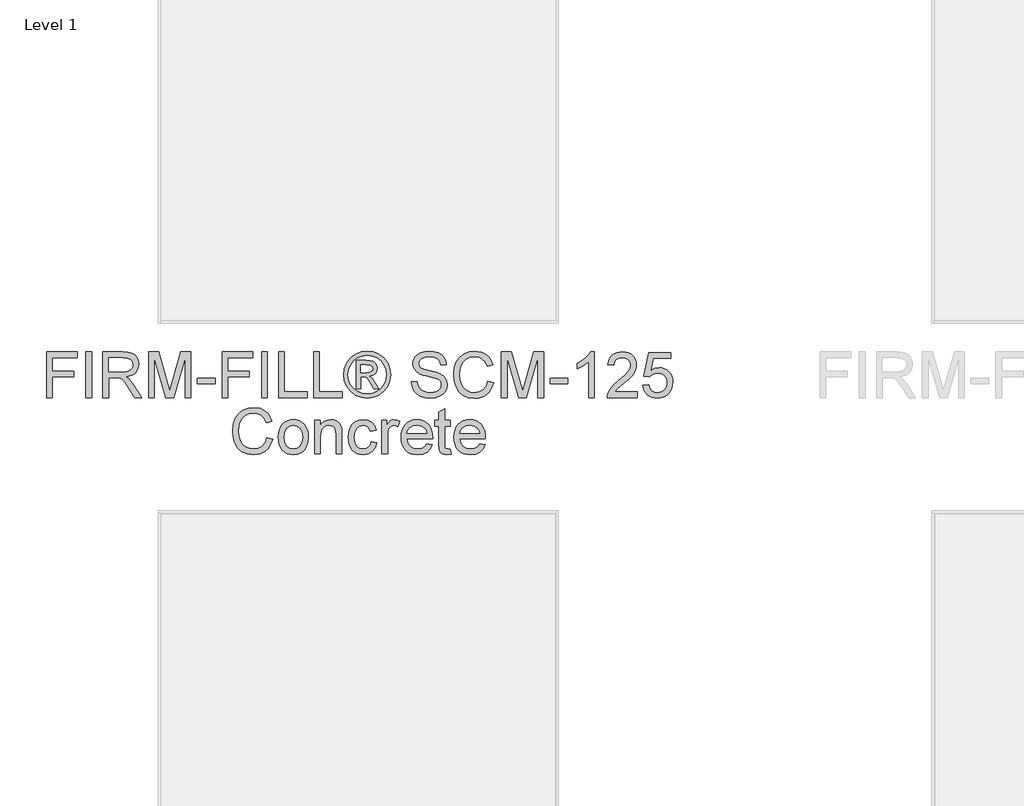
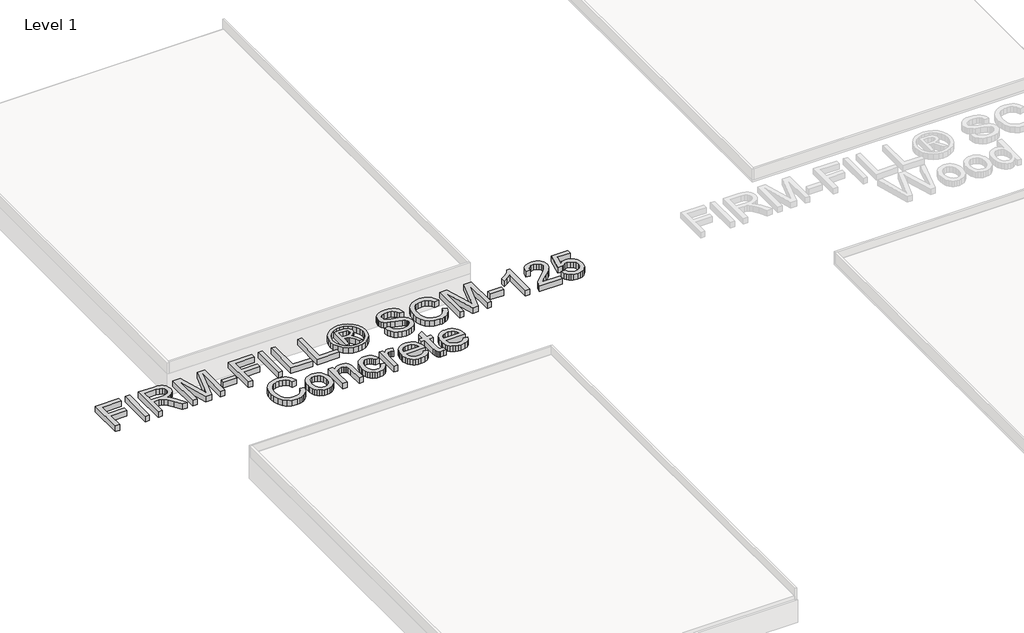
# One storey, part 6 of 10: 1 proxy.
"""IFC4 building model written with IfcOpenShell, lengths in millimetres."""

import ifcopenshell
import ifcopenshell.guid

model = None  # the IFC model being written
_history = None  # IfcOwnerHistory: only IFC2X3 demands one
_inside = {}  # id of a spatial element -> (the spatial element, [elements in it])
_under = {}  # id of a project, library or spatial element -> (it, [spatial elements below it])
_declared = {}  # id of a project -> (the project, [libraries it declares])
_typed = {}  # id of a type object -> (the type object, [elements of that type])
_made_of = {}  # id of a material, layer set ... -> (it, [elements and type objects made of it])


def new_model(schema):
    """Start an empty IFC model of exactly this schema.

    Asked for "IFC4X3", IfcOpenShell would pick the latest addendum, in which some entities
    have other attributes; the version numbers below select the first issue.
    IFC2X3 requires an IfcOwnerHistory on every rooted entity: one is made here for all.
    """
    global model, _history
    if schema == "IFC4X3":
        model = ifcopenshell.file(schema_version=(4, 3, 0, 0))
    else:
        model = ifcopenshell.file(schema=schema)
    _inside.clear()
    _under.clear()
    _declared.clear()
    _typed.clear()
    _made_of.clear()
    _history = None
    if model.schema == "IFC2X3":
        org = make("IfcOrganization", Name="unknown")
        user = make(
            "IfcPersonAndOrganization",
            ThePerson=make("IfcPerson", FamilyName="unknown"),
            TheOrganization=org,
        )
        app = make(
            "IfcApplication",
            ApplicationDeveloper=org,
            Version="unknown",
            ApplicationFullName="unknown",
            ApplicationIdentifier="unknown",
        )
        _history = make(
            "IfcOwnerHistory",
            OwningUser=user,
            OwningApplication=app,
            ChangeAction="ADDED",
            CreationDate=0,
        )
    return model


def make(cls, **values):
    """One entity of the class cls with the attributes given. An attribute that is None is left unset."""
    return model.create_entity(
        cls, **{name: value for name, value in values.items() if value is not None}
    )


def rooted(cls, **values):
    """An entity with a GlobalId (a new one), such as an element, a storey or a relation."""
    return make(cls, GlobalId=ifcopenshell.guid.new(), OwnerHistory=_history, **values)


def si_unit(unit_type, name, prefix=None):
    """IfcSIUnit, for example si_unit("LENGTHUNIT", "METRE", prefix="MILLI")."""
    return make("IfcSIUnit", UnitType=unit_type, Prefix=prefix, Name=name)


def assignment(units):
    """IfcUnitAssignment: the units of a project."""
    return None if units is None else make("IfcUnitAssignment", Units=units)


def point(xyz):
    """IfcCartesianPoint."""
    return None if xyz is None else make("IfcCartesianPoint", Coordinates=xyz)


def direction(xyz):
    """IfcDirection."""
    return None if xyz is None else make("IfcDirection", DirectionRatios=xyz)


def frame(location, z_axis=None, x_axis=None):
    """IfcAxis2Placement3D, a coordinate frame: its origin and axes. An axis left out is left unset."""
    return make(
        "IfcAxis2Placement3D",
        Location=point(location),
        Axis=direction(z_axis),
        RefDirection=direction(x_axis),
    )


def origin():
    """The frame at (0, 0, 0) with its axes left unset."""
    return frame((0.0, 0.0, 0.0))


def origin_with_axes():
    """The frame at (0, 0, 0) with the z axis (0, 0, 1) and the x axis (1, 0, 0) written out."""
    return frame((0.0, 0.0, 0.0), z_axis=(0.0, 0.0, 1.0), x_axis=(1.0, 0.0, 0.0))


def place(relative_to, where):
    """IfcLocalPlacement: puts the frame where relative to a parent placement (None: the world)."""
    return make(
        "IfcLocalPlacement", PlacementRelTo=relative_to, RelativePlacement=where
    )


def context(
    kind, dimensions, precision=None, world=None, true_north=None, identifier=None
):
    """IfcGeometricRepresentationContext, for example the 3D "Model" context."""
    return make(
        "IfcGeometricRepresentationContext",
        ContextIdentifier=identifier,
        ContextType=kind,
        CoordinateSpaceDimension=dimensions,
        Precision=precision,
        WorldCoordinateSystem=world,
        TrueNorth=true_north,
    )


def project(units=None, contexts=None):
    """IfcProject with its units and contexts."""
    return rooted(
        "IfcProject",
        Name="project",
        RepresentationContexts=contexts,
        UnitsInContext=assignment(units),
    )


def spatial(cls, under=None, at=None, **own):
    """A site, building, storey or space (cls), placed at a placement, below another one or the project."""
    s = rooted(cls, ObjectPlacement=at, **own)
    if under is not None:
        _under.setdefault(under.id(), (under, []))[1].append(s)
    return s


def polyline(points):
    """IfcPolyline through the points."""
    return make("IfcPolyline", Points=[point(p) for p in points])


def outline(outer, holes=None, kind="AREA"):
    """IfcArbitraryClosedProfileDef: a profile drawn as a closed curve; with holes, ...WithVoids."""
    if holes is None:
        return make("IfcArbitraryClosedProfileDef", ProfileType=kind, OuterCurve=outer)
    return make(
        "IfcArbitraryProfileDefWithVoids",
        ProfileType=kind,
        OuterCurve=outer,
        InnerCurves=holes,
    )


def extrude(swept, where, along, depth):
    """IfcExtrudedAreaSolid: the profile swept, set in the frame where, extruded along a direction by depth."""
    return make(
        "IfcExtrudedAreaSolid",
        SweptArea=swept,
        Position=where,
        ExtrudedDirection=direction(along),
        Depth=depth,
    )


def shape(context_of_items, identifier, shape_type, items):
    """IfcShapeRepresentation: the items that make up one representation, for example the "Body"."""
    return make(
        "IfcShapeRepresentation",
        ContextOfItems=context_of_items,
        RepresentationIdentifier=identifier,
        RepresentationType=shape_type,
        Items=items,
    )


def made_of(thing, what):
    """Note that an element or type object is made of a material, layer set ...; save() writes the relation."""
    if what is not None:
        _made_of.setdefault(what.id(), (what, []))[1].append(thing)
    return thing


def element(
    cls,
    number,
    at=None,
    inside=None,
    cuts=None,
    type_object=None,
    material=None,
    context=None,
    identifier="Body",
    shape_type=None,
    held_by="IfcProductDefinitionShape",
    body=None,
    shapes=None,
    **own,
):
    """One element of the class cls, such as IfcWall. Its Tag is "e" and its number.

    at: its placement. inside: the storey or other place that contains it. cuts: it is an
    opening in that element (IfcRelVoidsElement). A single representation is given by context,
    identifier, shape_type and body (its items); several are given by shapes. held_by: the class
    of the entity that holds the representations. save() writes the other relations.
    """
    e = rooted(cls, Tag="e%d" % number, ObjectPlacement=at, **own)
    if body is not None:
        shapes = [shape(context, identifier, shape_type, body)]
    if shapes is not None:
        e.Representation = make(held_by, Representations=shapes)
    if inside is not None:
        _inside.setdefault(inside.id(), (inside, []))[1].append(e)
    if cuts is not None:
        rooted(
            "IfcRelVoidsElement", RelatingBuildingElement=cuts, RelatedOpeningElement=e
        )
    if type_object is not None:
        _typed.setdefault(type_object.id(), (type_object, []))[1].append(e)
    return made_of(e, material)


def aggregate(whole, parts):
    """IfcRelAggregates: a whole, such as a stair, and the parts it consists of."""
    return rooted("IfcRelAggregates", RelatingObject=whole, RelatedObjects=parts)


def save(model, path):
    """Write the relations noted so far, then the file.

    IfcRelAggregates (storeys below a building ...), IfcRelContainedInSpatialStructure (elements
    in a storey), IfcRelDefinesByType, IfcRelAssociatesMaterial and IfcRelDeclares: one each for
    every whole, place, type object, material and project.
    """
    for whole, parts in _under.values():
        aggregate(whole, parts)
    for where, things in _inside.values():
        rooted(
            "IfcRelContainedInSpatialStructure",
            RelatedElements=things,
            RelatingStructure=where,
        )
    for kind, things in _typed.values():
        rooted("IfcRelDefinesByType", RelatedObjects=things, RelatingType=kind)
    for what, things in _made_of.values():
        rooted("IfcRelAssociatesMaterial", RelatedObjects=things, RelatingMaterial=what)
    for by, libraries in _declared.values():
        rooted("IfcRelDeclares", RelatingContext=by, RelatedDefinitions=libraries)
    model.write(path)


model = new_model("IFC4")

# Units and contexts
model_context = context("Model", 3, world=origin())
ifc_project = project(units=[si_unit("LENGTHUNIT", "METRE", prefix="MILLI")], contexts=[model_context])

# Site, building, storey
site = spatial("IfcSite", under=ifc_project)
building = spatial("IfcBuilding", under=site)
storey = spatial("IfcBuildingStorey", under=building, Name="Level 1", Elevation=0.0)

# Proxy
placement = place(None, origin())
element("IfcBuildingElementProxy", 1, Name="600mm Arial", ObjectType="600mm Arial", at=placement, inside=storey, context=model_context, shape_type="SweptSolid", body=[
    extrude(outline(polyline([(-5392.4048462, -4518.3364307), (-5392.4048462, -4218.2256615), (-5190.7679231, -4218.2256615), (-5190.7679231, -4255.7395076), (-5354.891, -4255.7395076), (-5354.891, -4344.8348922), (-5214.2140769, -4344.8348922), (-5214.2140769, -4382.3487384), (-5354.891, -4382.3487384), (-5354.891, -4518.3364307), (-5392.4048462, -4518.3364307)])), origin_with_axes(), (0.0, 0.0, 1.0), 50.8),
    extrude(outline(polyline([(-5134.4971539, -4518.3364307), (-5134.4971539, -4218.2256615), (-5096.9833077, -4218.2256615), (-5096.9833077, -4518.3364307), (-5134.4971539, -4518.3364307)])), origin_with_axes(), (0.0, 0.0, 1.0), 50.8),
    extrude(outline(polyline([(-5021.9556154, -4518.3364307), (-5021.9556154, -4218.2256615), (-4892.6354231, -4218.2256615), (-4857.8783318, -4220.249724), (-4832.5912885, -4226.3219115), (-4814.109125, -4237.5321038), (-4799.7666731, -4254.9701807), (-4790.562226, -4276.5937624), (-4787.4940769, -4300.3604692), (-4792.5771298, -4329.9246038), (-4807.8262885, -4354.4331615), (-4819.3776406, -4364.4206735), (-4833.6994856, -4372.4024403), (-4870.6546539, -4382.3487384), (-4849.3333077, -4398.3946999), (-4818.9265769, -4437.0075846), (-4768.8836923, -4518.3364307), (-4812.4788846, -4518.3364307), (-4851.5313846, -4456.1308538), (-4879.7400385, -4414.9535461), (-4899.5593654, -4395.5005653), (-4917.4004231, -4388.3568153), (-4939.1613846, -4387.0379692), (-4984.4417693, -4387.0379692), (-4984.4417693, -4518.3364307), (-5021.9556154, -4518.3364307)]), holes=[polyline([(-4984.4417693, -4349.524123), (-4900.4752308, -4349.524123), (-4876.3604952, -4348.1961182), (-4857.6493654, -4344.2121038), (-4843.5633558, -4337.3064788), (-4833.3239808, -4327.2136422), (-4827.0869375, -4315.0051567), (-4825.0079231, -4301.7525846), (-4828.9736202, -4283.4535942), (-4840.8707116, -4268.7081615), (-4861.3403029, -4258.9816711), (-4891.0235, -4255.7395076), (-4984.4417693, -4255.7395076), (-4984.4417693, -4349.524123)])]), origin_with_axes(), (0.0, 0.0, 1.0), 50.8),
    extrude(outline(polyline([(-4721.8448462, -4518.3364307), (-4721.8448462, -4218.2256615), (-4657.2946539, -4218.2256615), (-4595.8950385, -4429.7539307), (-4583.5125385, -4473.9352769), (-4570.1042693, -4426.0904692), (-4509.7304231, -4218.2256615), (-4445.1802308, -4218.2256615), (-4445.1802308, -4518.3364307), (-4482.6940769, -4518.3364307), (-4482.6940769, -4255.7395076), (-4558.0881154, -4518.3364307), (-4608.9369616, -4518.3364307), (-4684.331, -4255.7395076), (-4684.331, -4518.3364307), (-4721.8448462, -4518.3364307)])), origin_with_axes(), (0.0, 0.0, 1.0), 50.8),
    extrude(outline(polyline([(-4402.9771539, -4429.2410461), (-4402.9771539, -4391.7271999), (-4285.7463846, -4391.7271999), (-4285.7463846, -4429.2410461), (-4402.9771539, -4429.2410461)])), origin_with_axes(), (0.0, 0.0, 1.0), 50.8),
    extrude(outline(polyline([(-4238.8540769, -4518.3364307), (-4238.8540769, -4218.2256615), (-4037.2171539, -4218.2256615), (-4037.2171539, -4255.7395076), (-4201.3402308, -4255.7395076), (-4201.3402308, -4344.8348922), (-4060.6633077, -4344.8348922), (-4060.6633077, -4382.3487384), (-4201.3402308, -4382.3487384), (-4201.3402308, -4518.3364307), (-4238.8540769, -4518.3364307)])), origin_with_axes(), (0.0, 0.0, 1.0), 50.8),
    extrude(outline(polyline([(-3980.9463846, -4518.3364307), (-3980.9463846, -4218.2256615), (-3943.4325385, -4218.2256615), (-3943.4325385, -4518.3364307), (-3980.9463846, -4518.3364307)])), origin_with_axes(), (0.0, 0.0, 1.0), 50.8),
    extrude(outline(polyline([(-3868.4048462, -4518.3364307), (-3868.4048462, -4218.2256615), (-3830.891, -4218.2256615), (-3830.891, -4480.8225846), (-3680.8356154, -4480.8225846), (-3680.8356154, -4518.3364307), (-3868.4048462, -4518.3364307)])), origin_with_axes(), (0.0, 0.0, 1.0), 50.8),
    extrude(outline(polyline([(-3638.6325385, -4518.3364307), (-3638.6325385, -4218.2256615), (-3601.1186923, -4218.2256615), (-3601.1186923, -4480.8225846), (-3451.0633077, -4480.8225846), (-3451.0633077, -4518.3364307), (-3638.6325385, -4518.3364307)])), origin_with_axes(), (0.0, 0.0, 1.0), 50.8),
    extrude(outline(polyline([(-3357.2786923, -4462.0656615), (-3357.2786923, -4274.4964307), (-3296.6850385, -4274.4964307), (-3269.9051346, -4275.7878009), (-3251.6977308, -4279.6619115), (-3239.1961683, -4286.7507096), (-3229.5337885, -4297.6861422), (-3223.3516971, -4310.9570317), (-3221.291, -4325.0521999), (-3224.8445577, -4344.1754692), (-3235.5052308, -4360.6610461), (-3252.0274423, -4372.4940269), (-3273.1656154, -4377.6595076), (-3258.5117693, -4387.624123), (-3232.9408077, -4425.0646999), (-3211.9125385, -4462.0656615), (-3243.5648462, -4462.0656615), (-3260.0504231, -4432.3183538), (-3287.6729231, -4389.2360461), (-3297.7657596, -4383.814123), (-3311.6319616, -4382.3487384), (-3329.1433077, -4382.3487384), (-3329.1433077, -4462.0656615), (-3357.2786923, -4462.0656615)]), holes=[polyline([(-3329.1433077, -4354.2133538), (-3293.5344616, -4354.2133538), (-3272.0848943, -4352.4274163), (-3258.7315769, -4347.0696038), (-3251.7526827, -4338.7627047), (-3249.4263846, -4328.1295076), (-3253.8958077, -4314.5014307), (-3266.3149423, -4305.5625846), (-3295.8058077, -4302.6318153), (-3329.1433077, -4302.6318153), (-3329.1433077, -4354.2133538)])]), origin_with_axes(), (0.0, 0.0, 1.0), 50.8),
    extrude(outline(polyline([(-3286.8669616, -4213.5364307), (-3248.3456635, -4218.5370557), (-3210.7402308, -4233.5389307), (-3177.7049664, -4257.845998), (-3152.8941731, -4290.7621999), (-3137.3702548, -4328.7706134), (-3132.1956154, -4368.3543153), (-3137.2969856, -4407.5899884), (-3152.6010962, -4445.2870076), (-3177.1096539, -4478.0841471), (-3209.8243654, -4502.6201807), (-3247.4939087, -4517.9242913), (-3286.8669616, -4523.0256615), (-3326.1850625, -4517.9242913), (-3363.8362885, -4502.6201807), (-3396.578476, -4478.0841471), (-3421.1694616, -4445.2870076), (-3436.556, -4407.5899884), (-3441.6848462, -4368.3543153), (-3436.4827308, -4328.7706134), (-3420.8763846, -4290.7621999), (-3395.9831635, -4257.845998), (-3362.9204231, -4233.5389307), (-3325.3333077, -4218.5370557), (-3286.8669616, -4213.5364307)]), holes=[polyline([(-3286.8669616, -4241.6718153), (-3318.3910481, -4245.7657336), (-3349.0725385, -4258.0474884), (-3376.0447741, -4277.9492432), (-3396.4410962, -4304.9031615), (-3409.2723702, -4336.0059499), (-3413.5494616, -4368.3543153), (-3409.3547981, -4400.4920317), (-3396.7708077, -4431.2559499), (-3376.6400866, -4458.0083778), (-3349.8052308, -4478.111623), (-3318.9772019, -4490.6956134), (-3286.8669616, -4494.8902769), (-3254.7109279, -4490.6956134), (-3223.8920577, -4478.111623), (-3197.1029952, -4458.0083778), (-3177.0363846, -4431.2559499), (-3164.5073462, -4400.4920317), (-3160.331, -4368.3543153), (-3164.5806154, -4336.0059499), (-3177.3294616, -4304.9031615), (-3197.6708318, -4277.9492432), (-3224.6980193, -4258.0474884), (-3255.4253029, -4245.7657336), (-3286.8669616, -4241.6718153)])]), origin_with_axes(), (0.0, 0.0, 1.0), 50.8),
    extrude(outline(polyline([(-2996.2079231, -4415.1733538), (-2958.6940769, -4415.1733538), (-2954.3895096, -4435.990974), (-2946.6046539, -4452.7238346), (-2934.4602789, -4466.0038826), (-2917.0771539, -4476.4630653), (-2895.8290769, -4483.2496278), (-2872.0898462, -4485.5118153), (-2851.1897981, -4483.7991471), (-2832.8908077, -4478.6611422), (-2818.0629471, -4470.5282576), (-2807.5762885, -4459.8309499), (-2801.3392452, -4447.5491951), (-2799.2602308, -4434.6629692), (-2800.8172019, -4422.1064547), (-2805.4881154, -4411.2534499), (-2814.9764808, -4401.9940509), (-2830.9858077, -4394.2183538), (-2885.6080193, -4379.8942192), (-2921.4641491, -4370.4150124), (-2944.4065769, -4361.3937384), (-2963.0810721, -4348.7731134), (-2976.3153269, -4333.4781615), (-2984.2009279, -4315.8385942), (-2986.8294616, -4296.184123), (-2983.5781394, -4274.2125124), (-2973.8241731, -4253.7246038), (-2957.8240048, -4236.3597961), (-2935.8340769, -4223.7574884), (-2909.4388366, -4216.0916951), (-2880.2227308, -4213.5364307), (-2848.5704231, -4216.2107576), (-2820.8746539, -4224.2337384), (-2798.1245577, -4237.4405172), (-2781.3092693, -4255.6662384), (-2770.6669135, -4277.7752288), (-2766.4356154, -4302.6318153), (-2803.9494616, -4302.6318153), (-2810.8367693, -4280.2480653), (-2825.1975385, -4264.0921999), (-2847.6362404, -4254.3107576), (-2878.7573462, -4251.0502769), (-2910.6111443, -4254.274123), (-2932.4636923, -4263.9456615), (-2945.1026346, -4278.1782096), (-2949.3156154, -4295.0850846), (-2946.3298943, -4309.5008057), (-2937.3727308, -4321.0956615), (-2916.1979231, -4331.4632576), (-2876.1196539, -4342.0506615), (-2834.7591731, -4352.1068634), (-2809.7377308, -4360.8808538), (-2788.3522741, -4374.4906134), (-2773.4328269, -4391.2875846), (-2764.6679952, -4411.0885942), (-2761.7463846, -4433.7104692), (-2765.1076106, -4456.8360701), (-2775.1912885, -4478.587873), (-2791.5852789, -4497.3081615), (-2813.8774423, -4511.3392192), (-2840.6848221, -4520.1040509), (-2870.6244616, -4523.0256615), (-2907.3781394, -4519.8750846), (-2937.6291731, -4510.4233538), (-2961.7255914, -4494.6338346), (-2980.0154231, -4472.4698922), (-2991.7568173, -4445.4701807), (-2996.2079231, -4415.1733538)])), origin_with_axes(), (0.0, 0.0, 1.0), 50.8),
    extrude(outline(polyline([(-2494.4602308, -4411.6564307), (-2456.9463846, -4421.3279692), (-2464.3694736, -4444.6573502), (-2474.2562404, -4465.042224), (-2486.6066851, -4482.4825906), (-2501.4208077, -4496.9784499), (-2518.3643173, -4508.374105), (-2537.1029231, -4516.5138586), (-2557.636625, -4521.3977108), (-2579.9654231, -4523.0256615), (-2623.4781875, -4518.0983057), (-2658.0337885, -4503.3162384), (-2684.5206154, -4479.1923442), (-2703.8270577, -4446.2395076), (-2715.6142452, -4407.4984019), (-2719.5433077, -4366.0096999), (-2715.1013606, -4322.2496519), (-2701.7755193, -4284.4610461), (-2680.2618414, -4253.8436663), (-2651.2563846, -4231.5972961), (-2616.8564808, -4218.0516471), (-2579.1594616, -4213.5364307), (-2538.0279471, -4219.3796519), (-2520.1342272, -4226.6836783), (-2504.0218654, -4236.9093153), (-2489.9564628, -4249.7863826), (-2478.2036202, -4265.0446999), (-2461.6356154, -4302.7050846), (-2499.1494616, -4311.6439307), (-2512.15475, -4284.2870317), (-2529.9225385, -4265.5209499), (-2552.6726346, -4254.6679451), (-2580.6248462, -4251.0502769), (-2612.8449904, -4255.0617672), (-2639.3135, -4267.0962384), (-2659.3984279, -4285.8897961), (-2672.4678269, -4310.1785461), (-2679.6390529, -4337.6361903), (-2682.0294616, -4365.9364307), (-2679.1994375, -4400.5927769), (-2670.7093654, -4430.5598922), (-2656.2386923, -4454.6929451), (-2635.4668654, -4471.8471038), (-2610.5644856, -4482.0956374), (-2583.7021539, -4485.5118153), (-2552.3887164, -4480.8592192), (-2526.2957116, -4466.9014307), (-2506.5954471, -4443.7849884), (-2494.4602308, -4411.6564307)])), origin_with_axes(), (0.0, 0.0, 1.0), 50.8),
    extrude(outline(polyline([(-2405.3648462, -4518.3364307), (-2405.3648462, -4218.2256615), (-2340.8146539, -4218.2256615), (-2279.4150385, -4429.7539307), (-2267.0325385, -4473.9352769), (-2253.6242693, -4426.0904692), (-2193.2504231, -4218.2256615), (-2128.7002308, -4218.2256615), (-2128.7002308, -4518.3364307), (-2166.2140769, -4518.3364307), (-2166.2140769, -4255.7395076), (-2241.6081154, -4518.3364307), (-2292.4569616, -4518.3364307), (-2367.851, -4255.7395076), (-2367.851, -4518.3364307), (-2405.3648462, -4518.3364307)])), origin_with_axes(), (0.0, 0.0, 1.0), 50.8),
    extrude(outline(polyline([(-2086.4971539, -4429.2410461), (-2086.4971539, -4391.7271999), (-1969.2663846, -4391.7271999), (-1969.2663846, -4429.2410461), (-2086.4971539, -4429.2410461)])), origin_with_axes(), (0.0, 0.0, 1.0), 50.8),
    extrude(outline(polyline([(-1795.7648462, -4518.3364307), (-1833.2786923, -4518.3364307), (-1833.2786923, -4284.4610461), (-1868.8142693, -4309.7755653), (-1908.3063846, -4328.7156615), (-1908.3063846, -4293.2533538), (-1878.8429952, -4277.2257096), (-1853.3178269, -4258.1573922), (-1833.1962644, -4237.8801326), (-1819.9436923, -4218.2256615), (-1795.7648462, -4218.2256615), (-1795.7648462, -4518.3364307)])), origin_with_axes(), (0.0, 0.0, 1.0), 50.8),
    extrude(outline(polyline([(-1514.411, -4480.8225846), (-1514.411, -4518.3364307), (-1711.3586923, -4518.3364307), (-1707.3288846, -4492.4723922), (-1698.0786443, -4472.2592432), (-1684.5421539, -4452.6505653), (-1664.9609519, -4432.1260221), (-1637.5765769, -4409.1652769), (-1597.0953269, -4373.2084019), (-1572.8065769, -4346.666623), (-1560.6622019, -4325.1254692), (-1556.6140769, -4304.1704692), (-1560.4332356, -4285.3860701), (-1571.8907116, -4269.7705653), (-1589.5028029, -4259.2472721), (-1611.7858077, -4255.7395076), (-1635.1861683, -4259.1648442), (-1653.3660962, -4269.4408538), (-1665.0983318, -4285.7615749), (-1669.1556154, -4307.3210461), (-1706.6694616, -4302.6318153), (-1697.5749183, -4266.3452288), (-1689.0642392, -4251.8699764), (-1677.9112885, -4239.8400846), (-1664.3725084, -4230.3837745), (-1648.7043414, -4223.6292672), (-1610.9798462, -4218.2256615), (-1590.8743113, -4219.7276807), (-1572.9805914, -4224.2337384), (-1557.2986863, -4231.7438346), (-1543.8285962, -4242.2579692), (-1533.0099363, -4254.9976567), (-1525.2823221, -4269.1844115), (-1520.6457536, -4284.8182336), (-1519.1002308, -4301.899123), (-1520.7671058, -4319.8409259), (-1525.7677308, -4337.4713346), (-1534.6424664, -4355.4039788), (-1547.9316731, -4374.2524884), (-1569.1156394, -4396.7553009), (-1601.6746539, -4425.6508538), (-1644.8302308, -4461.7359499), (-1661.7554231, -4480.8225846), (-1514.411, -4480.8225846)])), origin_with_axes(), (0.0, 0.0, 1.0), 50.8),
    extrude(outline(polyline([(-1476.8971539, -4438.6195076), (-1439.3833077, -4433.9302769), (-1432.496, -4456.4514067), (-1420.4798462, -4472.5797961), (-1403.3897981, -4482.2788105), (-1381.2808077, -4485.5118153), (-1354.391, -4481.0149163), (-1334.2419616, -4467.5242192), (-1321.6579712, -4446.5966951), (-1317.4633077, -4419.7893153), (-1321.3923702, -4394.5480653), (-1333.1795577, -4375.241623), (-1352.9164568, -4362.9873442), (-1380.6946539, -4358.9025846), (-1398.8928991, -4360.5328249), (-1413.6291731, -4365.4235461), (-1434.6940769, -4382.3487384), (-1472.2079231, -4377.6595076), (-1439.3833077, -4222.9148922), (-1294.0171539, -4222.9148922), (-1294.0171539, -4260.4287384), (-1409.0498462, -4260.4287384), (-1425.0958077, -4343.0764307), (-1398.2975866, -4326.8106615), (-1370.2171539, -4321.3887384), (-1351.9479291, -4323.0693514), (-1335.1669856, -4328.1111903), (-1319.8743233, -4336.5142552), (-1306.0699423, -4348.2785461), (-1294.642232, -4362.6851086), (-1286.4795818, -4379.0149884), (-1281.5819916, -4397.2681855), (-1279.9494616, -4417.4446999), (-1285.8293173, -4454.9585461), (-1293.179137, -4471.682248), (-1303.4688846, -4487.0504692), (-1319.0569135, -4502.7896158), (-1337.246, -4514.0318634), (-1358.0361443, -4520.777212), (-1381.4273462, -4523.0256615), (-1418.2726106, -4517.2465509), (-1433.8858257, -4510.0226627), (-1447.6260962, -4499.9092192), (-1459.0583858, -4487.4099463), (-1467.7476587, -4473.0285701), (-1476.8971539, -4438.6195076)])), origin_with_axes(), (0.0, 0.0, 1.0), 50.8),
    extrude(outline(polyline([(-3945.7771539, -4782.1056615), (-3908.2633077, -4791.7771999), (-3915.6863967, -4815.106581), (-3925.5731635, -4835.4914547), (-3937.9236082, -4852.9318213), (-3952.7377308, -4867.4276807), (-3969.6812404, -4878.8233358), (-3988.4198462, -4886.9630894), (-4008.9535481, -4891.8469415), (-4031.2823462, -4893.4748922), (-4074.7951106, -4888.5475365), (-4109.3507116, -4873.7654692), (-4135.8375385, -4849.6415749), (-4155.1439808, -4816.6887384), (-4166.9311683, -4777.9476326), (-4170.8602308, -4736.4589307), (-4166.4182837, -4692.6988826), (-4153.0924423, -4654.9102769), (-4131.5787644, -4624.2928971), (-4102.5733077, -4602.0465269), (-4068.1734039, -4588.5008778), (-4030.4763846, -4583.9856615), (-3989.3448702, -4589.8288826), (-3971.4511503, -4597.1329091), (-3955.3387885, -4607.3585461), (-3941.2733858, -4620.2356134), (-3929.5205433, -4635.4939307), (-3912.9525385, -4673.1543153), (-3950.4663846, -4682.0931615), (-3963.4716731, -4654.7362624), (-3981.2394616, -4635.9701807), (-4003.9895577, -4625.1171759), (-4031.9417693, -4621.4995076), (-4064.1619135, -4625.510998), (-4090.6304231, -4637.5454692), (-4110.715351, -4656.3390269), (-4123.78475, -4680.6277769), (-4130.955976, -4708.0854211), (-4133.3463846, -4736.3856615), (-4130.5163606, -4771.0420076), (-4122.0262885, -4801.009123), (-4107.5556154, -4825.1421759), (-4086.7837885, -4842.2963346), (-4061.8814087, -4852.5448682), (-4035.0190769, -4855.9610461), (-4003.7056394, -4851.3084499), (-3977.6126346, -4837.3506615), (-3957.9123702, -4814.2342192), (-3945.7771539, -4782.1056615)])), origin_with_axes(), (0.0, 0.0, 1.0), 50.8),
    extrude(outline(polyline([(-3870.7494616, -4778.5887384), (-3868.7208197, -4750.0457937), (-3862.6348943, -4725.4502288), (-3852.4916851, -4704.8020437), (-3838.2911923, -4688.1012384), (-3823.9945337, -4677.4268273), (-3808.2141731, -4669.802248), (-3790.9501106, -4665.2275004), (-3772.2023462, -4663.7025846), (-3751.5060781, -4665.5595016), (-3732.7926587, -4671.1302528), (-3716.0620878, -4680.4148382), (-3701.3143654, -4693.4132576), (-3689.2776046, -4709.6858959), (-3680.6799183, -4728.7931374), (-3675.5213065, -4750.7349824), (-3673.8017693, -4775.5114307), (-3676.8424423, -4813.4099403), (-3685.9644616, -4842.2596999), (-3700.902226, -4863.8649644), (-3721.3901346, -4880.0299884), (-3745.7246779, -4890.1136663), (-3772.2023462, -4893.4748922), (-3793.2008498, -4891.6248442), (-3812.0882837, -4886.0746999), (-3828.8646479, -4876.8244596), (-3843.5299423, -4863.874123), (-3855.438482, -4847.443498), (-3863.9445818, -4827.7523922), (-3869.0482416, -4804.8008057), (-3870.7494616, -4778.5887384)]), holes=[polyline([(-3833.2356154, -4778.5154692), (-3828.8944135, -4812.466599), (-3815.8708077, -4836.6546038), (-3796.2712885, -4851.1344355), (-3772.2023462, -4855.9610461), (-3748.2433077, -4851.1069596), (-3728.6804231, -4836.5446999), (-3715.6568173, -4812.0361422), (-3711.3156154, -4777.3431615), (-3715.6842933, -4744.3811663), (-3728.7903269, -4720.522873), (-3748.3806875, -4706.0430413), (-3772.2023462, -4701.2164307), (-3796.2712885, -4706.024724), (-3815.8708077, -4720.4496038), (-3828.8944135, -4744.5826567), (-3833.2356154, -4778.5154692)])]), origin_with_axes(), (0.0, 0.0, 1.0), 50.8),
    extrude(outline(polyline([(-3631.5986923, -4888.7856615), (-3631.5986923, -4668.3918153), (-3594.0848462, -4668.3918153), (-3594.0848462, -4699.1648922), (-3581.0520818, -4683.6501326), (-3565.3999423, -4672.5681615), (-3547.1284279, -4665.9189788), (-3526.2375385, -4663.7025846), (-3507.7462164, -4665.4885221), (-3490.8118654, -4670.8463346), (-3476.6892212, -4679.1074403), (-3466.6330193, -4689.6032576), (-3455.3861923, -4717.189123), (-3453.4079231, -4753.4573922), (-3453.4079231, -4888.7856615), (-3490.9217693, -4888.7856615), (-3490.9217693, -4758.5129692), (-3495.2446539, -4725.3220076), (-3501.2252548, -4715.4398201), (-3510.5212885, -4707.7740269), (-3522.4366971, -4702.8558297), (-3536.2754231, -4701.2164307), (-3558.2470337, -4704.8982096), (-3576.9764808, -4715.9435461), (-3584.4613906, -4724.9602408), (-3589.8077548, -4737.2832096), (-3594.0848462, -4771.8479692), (-3594.0848462, -4888.7856615), (-3631.5986923, -4888.7856615)])), origin_with_axes(), (0.0, 0.0, 1.0), 50.8),
    extrude(outline(polyline([(-3261.1494616, -4809.0687384), (-3223.6356154, -4813.7579692), (-3234.0947981, -4847.1229451), (-3253.7492693, -4872.3367192), (-3280.7489808, -4888.190349), (-3313.2438846, -4893.4748922), (-3334.2836022, -4891.6317132), (-3353.1481394, -4886.1021759), (-3369.8374964, -4876.8862805), (-3384.3516731, -4863.9840269), (-3396.0999363, -4847.6381194), (-3404.4915529, -4828.0912624), (-3409.5265229, -4805.343456), (-3411.2048462, -4779.3946999), (-3408.3381875, -4746.0114067), (-3399.7382116, -4717.0792192), (-3385.2675385, -4693.7154932), (-3364.7887885, -4677.0375846), (-3340.2893894, -4667.0363346), (-3313.7567693, -4663.7025846), (-3282.0586683, -4668.2819115), (-3256.7166731, -4682.0198922), (-3238.5367452, -4704.1838346), (-3228.3248462, -4734.0410461), (-3265.8386923, -4738.7302769), (-3272.6435721, -4722.3637624), (-3283.2401346, -4710.6315269), (-3297.042226, -4703.5702047), (-3313.4636923, -4701.2164307), (-3337.7066491, -4705.8507096), (-3356.9489808, -4719.7535461), (-3369.5054952, -4743.6759499), (-3373.691, -4778.3689307), (-3369.5970818, -4813.5290028), (-3357.3153269, -4837.5338346), (-3338.4210241, -4851.3542432), (-3314.4894616, -4855.9610461), (-3295.0639568, -4853.0852288), (-3279.1370577, -4844.4577769), (-3267.5513606, -4829.8588826), (-3261.1494616, -4809.0687384)])), origin_with_axes(), (0.0, 0.0, 1.0), 50.8),
    extrude(outline(polyline([(-3190.811, -4888.7856615), (-3190.811, -4668.3918153), (-3157.9863846, -4668.3918153), (-3157.9863846, -4700.996623), (-3145.8603269, -4682.0931615), (-3134.6867693, -4670.9562384), (-3123.4765769, -4665.515998), (-3111.2406154, -4663.7025846), (-3092.5569616, -4666.5967192), (-3073.5802308, -4675.279123), (-3086.1092693, -4708.9096999), (-3099.2977308, -4703.139748), (-3112.4861923, -4701.2164307), (-3123.687226, -4703.0664788), (-3133.6976346, -4708.616623), (-3141.784726, -4717.4455653), (-3147.2158077, -4729.1320076), (-3151.7768173, -4750.0870076), (-3153.2971539, -4772.9470076), (-3153.2971539, -4888.7856615), (-3190.811, -4888.7856615)])), origin_with_axes(), (0.0, 0.0, 1.0), 50.8),
    extrude(outline(polyline([(-2895.8290769, -4823.1364307), (-2859.0479231, -4827.8256615), (-2872.3004952, -4855.539748), (-2893.4478269, -4876.256623), (-2922.0136683, -4889.1703249), (-2957.5217693, -4893.4748922), (-2980.798488, -4891.6179752), (-3001.5382596, -4886.047224), (-3019.7410842, -4876.7626386), (-3035.4069616, -4863.7642192), (-3048.0046899, -4847.4137324), (-3057.0030673, -4828.0729451), (-3062.4020938, -4805.7418574), (-3064.2017693, -4780.4204692), (-3062.3837765, -4754.2404572), (-3056.9297981, -4731.1652288), (-3047.8398342, -4711.1947841), (-3035.1138846, -4694.329123), (-3019.4892212, -4680.9300124), (-3001.7031154, -4671.3592192), (-2981.7555673, -4665.6167432), (-2959.6465769, -4663.7025846), (-2938.2496719, -4665.6121639), (-2918.899726, -4671.3409019), (-2901.5967392, -4680.8887985), (-2886.3407116, -4694.2558538), (-2873.887232, -4711.0848802), (-2864.9918894, -4731.0186903), (-2859.6546839, -4754.0572841), (-2857.8756154, -4780.2006615), (-2858.0954231, -4790.3118153), (-3026.6879231, -4790.3118153), (-3020.1944375, -4818.392248), (-3005.1101346, -4839.0358538), (-2983.3400144, -4851.729748), (-2956.7890769, -4855.9610461), (-2936.8232116, -4854.0010942), (-2920.0079231, -4848.1212384), (-2906.3432116, -4837.9551326), (-2895.8290769, -4823.1364307)]), holes=[polyline([(-3026.6879231, -4752.7979692), (-2895.3894616, -4752.7979692), (-2900.4633558, -4732.9786422), (-2910.4096539, -4718.8010461), (-2932.2805193, -4705.6125846), (-2959.7931154, -4701.2164307), (-2985.0801587, -4704.7241951), (-3005.9893654, -4715.2474884), (-3020.5241491, -4731.6506374), (-3026.6879231, -4752.7979692)])]), origin_with_axes(), (0.0, 0.0, 1.0), 50.8),
    extrude(outline(polyline([(-2740.6448462, -4857.4996999), (-2735.9556154, -4889.8846999), (-2764.0177308, -4893.4748922), (-2782.0236443, -4891.9179211), (-2795.4502308, -4887.2470076), (-2804.9385962, -4880.0483057), (-2811.1298462, -4870.9079692), (-2814.5368654, -4855.2100365), (-2815.6725385, -4828.3385461), (-2815.6725385, -4705.9056615), (-2843.8079231, -4705.9056615), (-2843.8079231, -4668.3918153), (-2815.6725385, -4668.3918153), (-2815.6725385, -4614.8320076), (-2778.1586923, -4592.7779692), (-2778.1586923, -4668.3918153), (-2740.6448462, -4668.3918153), (-2740.6448462, -4705.9056615), (-2778.1586923, -4705.9056615), (-2778.1586923, -4827.2395076), (-2776.1804231, -4846.5825846), (-2769.7693654, -4853.4332576), (-2756.9838846, -4855.9610461), (-2740.6448462, -4857.4996999)])), origin_with_axes(), (0.0, 0.0, 1.0), 50.8),
    extrude(outline(polyline([(-2548.826, -4823.1364307), (-2512.0448462, -4827.8256615), (-2525.2974183, -4855.539748), (-2546.44475, -4876.256623), (-2575.0105914, -4889.1703249), (-2610.5186923, -4893.4748922), (-2633.7954111, -4891.6179752), (-2654.5351827, -4886.047224), (-2672.7380072, -4876.7626386), (-2688.4038846, -4863.7642192), (-2701.001613, -4847.4137324), (-2709.9999904, -4828.0729451), (-2715.3990169, -4805.7418574), (-2717.1986923, -4780.4204692), (-2715.3806995, -4754.2404572), (-2709.9267212, -4731.1652288), (-2700.8367572, -4711.1947841), (-2688.1108077, -4694.329123), (-2672.4861443, -4680.9300124), (-2654.7000385, -4671.3592192), (-2634.7524904, -4665.6167432), (-2612.6435, -4663.7025846), (-2591.246595, -4665.6121639), (-2571.8966491, -4671.3409019), (-2554.5936623, -4680.8887985), (-2539.3376346, -4694.2558538), (-2526.8841551, -4711.0848802), (-2517.9888125, -4731.0186903), (-2512.651607, -4754.0572841), (-2510.8725385, -4780.2006615), (-2511.0923462, -4790.3118153), (-2679.6848462, -4790.3118153), (-2673.1913606, -4818.392248), (-2658.1070577, -4839.0358538), (-2636.3369375, -4851.729748), (-2609.786, -4855.9610461), (-2589.8201346, -4854.0010942), (-2573.0048462, -4848.1212384), (-2559.3401346, -4837.9551326), (-2548.826, -4823.1364307)]), holes=[polyline([(-2679.6848462, -4752.7979692), (-2548.3863846, -4752.7979692), (-2553.4602789, -4732.9786422), (-2563.4065769, -4718.8010461), (-2585.2774423, -4705.6125846), (-2612.7900385, -4701.2164307), (-2638.0770818, -4704.7241951), (-2658.9862885, -4715.2474884), (-2673.5210721, -4731.6506374), (-2679.6848462, -4752.7979692)])]), origin_with_axes(), (0.0, 0.0, 1.0), 50.8),
])

save(model, "model.ifc")
